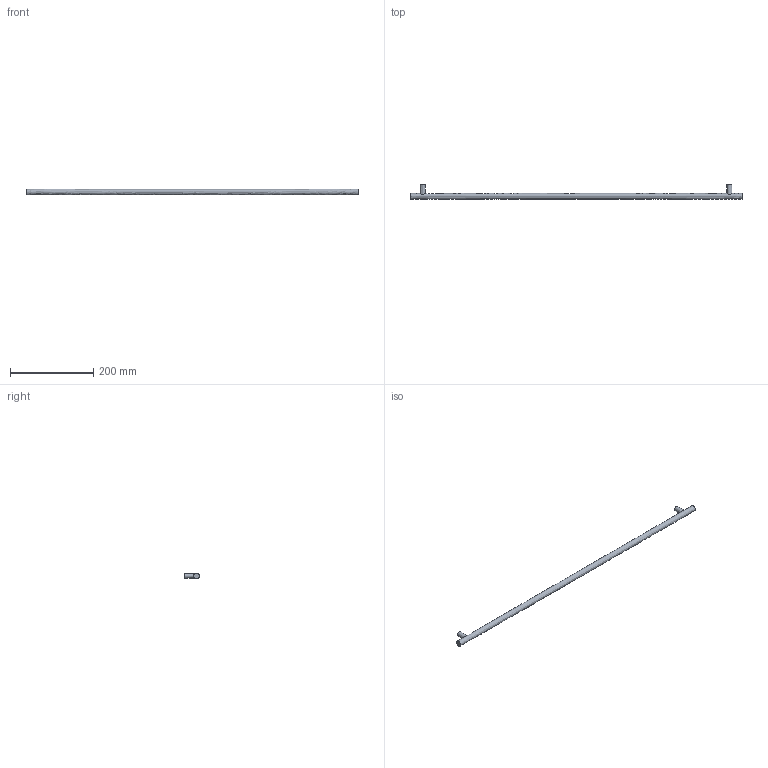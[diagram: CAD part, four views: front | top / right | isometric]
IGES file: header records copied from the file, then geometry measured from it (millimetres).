
Start section: Data from Parasolid IGES Translator 15.0.47, Copyright(c) 2006 Siemens P LM Software. All Rights Reserved.
Global section: file name: 9071115.igs; native system:  By UGS Corp.; preprocessor: XPlus GENERIC/IGES 3.0; author: Noname; organization: Noname; date: 20140122.181444; units: millimetre
Bounding box: 796 x 35 x 14 mm (x, y, z)
Surface area: 37289.6 mm2 (no closed solid volume)
Topology: 0 solids, 0 shells, 11 faces, 30 edges, 22 vertices
Faces by surface type: extrusion 6, revolution 5
